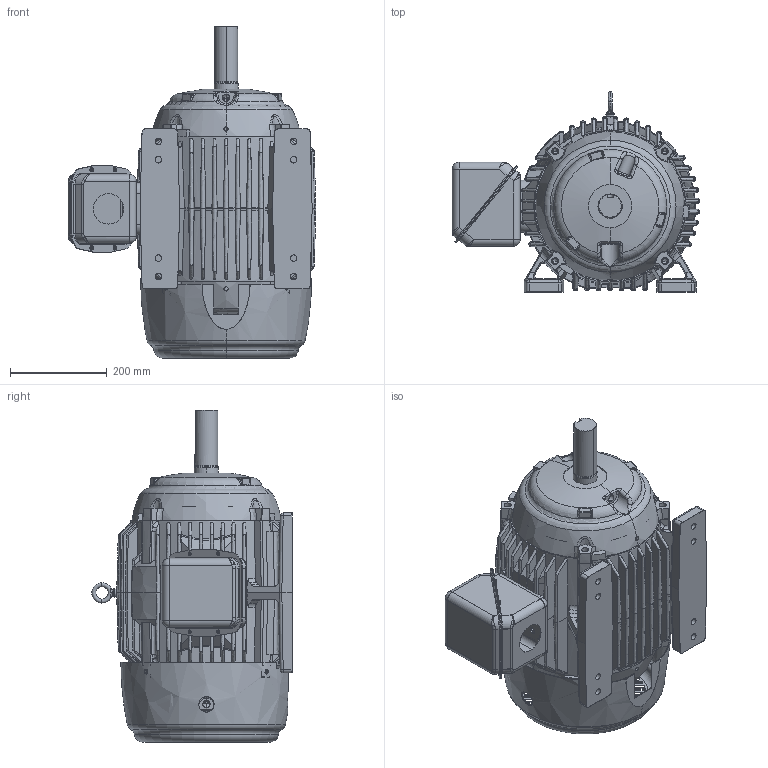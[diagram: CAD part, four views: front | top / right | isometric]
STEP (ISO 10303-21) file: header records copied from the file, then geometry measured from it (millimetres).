
FILE_DESCRIPTION((''),'2;1');
FILE_NAME('280_GP_ASSY_ASM','2013-07-11T',('emd2341'),('Nidec Motor Corporation'),'PRO/ENGINEER BY PARAMETRIC TECHNOLOGY CORPORATION, 2012360','PRO/ENGINEER BY PARAMETRIC TECHNOLOGY CORPORATION, 2012360','');
FILE_SCHEMA(('CONFIG_CONTROL_DESIGN'));
Length unit declared in the file: inch
Products named in the file (11): 0945027; 0645671; 0561184; 0977923; 0645672; 0183506; 0382077; 0133167; 0378793; 0378794; 280_GP_ASSY_ASM
Assembly tree (11 placements, depth 2):
  280_GP_ASSY_ASM
    0945027
    0645671
    0561184  x2
    0977923
    0645672
    0183506
    0382077
    0133167
    0378793
    0378794
Bounding box: 511.52 x 414.25 x 685.93 mm (x, y, z)
Volume: 11445717.4 mm3; surface area: 2751834.5 mm2
Topology: 15 solids, 15 shells, 2515 faces, 6399 edges, 3890 vertices
Faces by surface type: bspline 824, plane 598, cylinder 596, torus 198, cone 197, sphere 96, extrusion 6
Entity records: 112970 total; most frequent: CARTESIAN_POINT 59429, ORIENTED_EDGE 12586, DIRECTION 9056, EDGE_CURVE 6293, VERTEX_POINT 3854, AXIS2_PLACEMENT_3D 3656, EDGE_LOOP 2779, B_SPLINE_CURVE_WITH_KNOTS 2580
